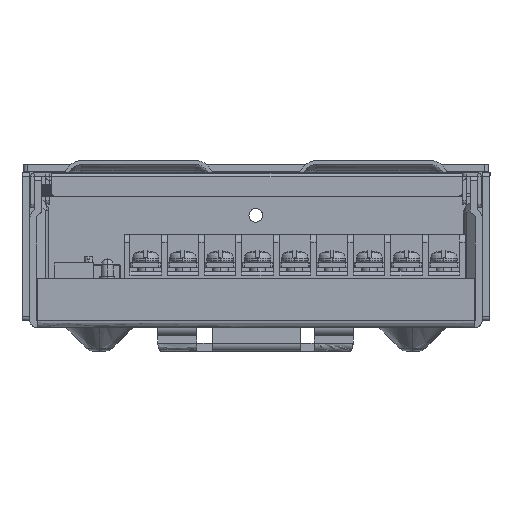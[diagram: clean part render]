
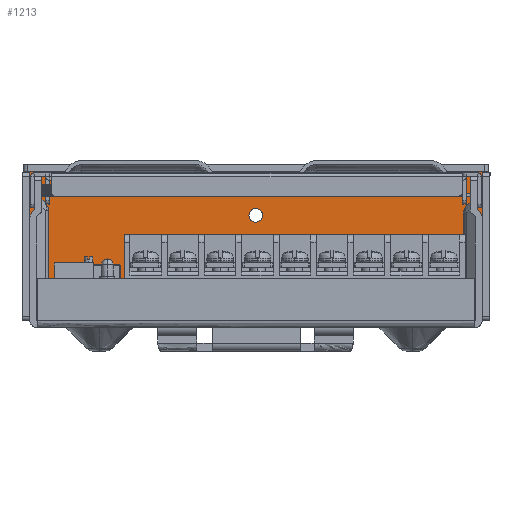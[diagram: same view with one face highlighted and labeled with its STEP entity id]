
A CAD part, front view. The second image highlights one B-rep face of the part: STEP entity #1213.
In plain terms, the highlighted planar face has unit normal (0, -1, 0).
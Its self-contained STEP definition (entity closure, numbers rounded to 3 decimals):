
#1213=ADVANCED_FACE('',(#4745,#3255,#3256),#44629,.T.);
#3255=FACE_BOUND('',#7590,.T.);
#3256=FACE_BOUND('',#7591,.T.);
#4745=FACE_OUTER_BOUND('',#7589,.T.);
#7589=EDGE_LOOP('',(#14200,#14201,#14202,#14203,#14204,#14205,#14206,#14207,
#14208,#14209,#14210,#14211));
#7590=EDGE_LOOP('',(#14212,#14213));
#7591=EDGE_LOOP('',(#14214,#14215));
#14200=ORIENTED_EDGE('',*,*,#26204,.F.);
#14201=ORIENTED_EDGE('',*,*,#26229,.T.);
#14202=ORIENTED_EDGE('',*,*,#26230,.T.);
#14203=ORIENTED_EDGE('',*,*,#26231,.T.);
#14204=ORIENTED_EDGE('',*,*,#26232,.T.);
#14205=ORIENTED_EDGE('',*,*,#26233,.T.);
#14206=ORIENTED_EDGE('',*,*,#26234,.T.);
#14207=ORIENTED_EDGE('',*,*,#26235,.T.);
#14208=ORIENTED_EDGE('',*,*,#26236,.T.);
#14209=ORIENTED_EDGE('',*,*,#26237,.T.);
#14210=ORIENTED_EDGE('',*,*,#26238,.T.);
#14211=ORIENTED_EDGE('',*,*,#26239,.T.);
#14212=ORIENTED_EDGE('',*,*,#26737,.T.);
#14213=ORIENTED_EDGE('',*,*,#26803,.T.);
#14214=ORIENTED_EDGE('',*,*,#26741,.T.);
#14215=ORIENTED_EDGE('',*,*,#26805,.T.);
#26204=EDGE_CURVE('',#39652,#39650,#35223,.T.);
#26229=EDGE_CURVE('',#39652,#39482,#35247,.T.);
#26230=EDGE_CURVE('',#39482,#39481,#35248,.T.);
#26231=EDGE_CURVE('',#39481,#39687,#35249,.T.);
#26232=EDGE_CURVE('',#39687,#39688,#35250,.T.);
#26233=EDGE_CURVE('',#39688,#39689,#35251,.T.);
#26234=EDGE_CURVE('',#39689,#39690,#35252,.T.);
#26235=EDGE_CURVE('',#39690,#39691,#35253,.T.);
#26236=EDGE_CURVE('',#39691,#39692,#35254,.T.);
#26237=EDGE_CURVE('',#39692,#39582,#35255,.T.);
#26238=EDGE_CURVE('',#39582,#39564,#35256,.T.);
#26239=EDGE_CURVE('',#39564,#39650,#35257,.T.);
#26737=EDGE_CURVE('',#39694,#39693,#31965,.T.);
#26741=EDGE_CURVE('',#39696,#39695,#31967,.T.);
#26803=EDGE_CURVE('',#39693,#39694,#32010,.T.);
#26805=EDGE_CURVE('',#39695,#39696,#32012,.T.);
#31965=(
BOUNDED_CURVE()
B_SPLINE_CURVE(2,(#70463,#70464,#70465,#70466,#70467),.UNSPECIFIED.,.F.,
 .F.)
B_SPLINE_CURVE_WITH_KNOTS((3,2,3),(-7.,-3.5,
0.),.UNSPECIFIED.)
CURVE()
GEOMETRIC_REPRESENTATION_ITEM()
RATIONAL_B_SPLINE_CURVE((1.,0.707,1.,0.707,1.))
REPRESENTATION_ITEM('')
);
#31967=(
BOUNDED_CURVE()
B_SPLINE_CURVE(2,(#70477,#70478,#70479,#70480,#70481),.UNSPECIFIED.,.F.,
 .F.)
B_SPLINE_CURVE_WITH_KNOTS((3,2,3),(-7.,-3.5,0.),
 .UNSPECIFIED.)
CURVE()
GEOMETRIC_REPRESENTATION_ITEM()
RATIONAL_B_SPLINE_CURVE((1.,0.707,1.,0.707,1.))
REPRESENTATION_ITEM('')
);
#32010=(
BOUNDED_CURVE()
B_SPLINE_CURVE(2,(#70809,#70810,#70811,#70812,#70813),.UNSPECIFIED.,.F.,
 .F.)
B_SPLINE_CURVE_WITH_KNOTS((3,2,3),(-7.,-3.5,
0.),.UNSPECIFIED.)
CURVE()
GEOMETRIC_REPRESENTATION_ITEM()
RATIONAL_B_SPLINE_CURVE((1.,0.707,1.,0.707,1.))
REPRESENTATION_ITEM('')
);
#32012=(
BOUNDED_CURVE()
B_SPLINE_CURVE(2,(#70819,#70820,#70821,#70822,#70823),.UNSPECIFIED.,.F.,
 .F.)
B_SPLINE_CURVE_WITH_KNOTS((3,2,3),(-7.,-3.5,
0.),.UNSPECIFIED.)
CURVE()
GEOMETRIC_REPRESENTATION_ITEM()
RATIONAL_B_SPLINE_CURVE((1.,0.707,1.,0.707,1.))
REPRESENTATION_ITEM('')
);
#35223=B_SPLINE_CURVE_WITH_KNOTS('',1,(#68873,#68874),.UNSPECIFIED.,.F.,
 .F.,(2,2),(0.,111.8),.UNSPECIFIED.);
#35247=B_SPLINE_CURVE_WITH_KNOTS('',1,(#68924,#68925),.UNSPECIFIED.,.F.,
 .F.,(2,2),(0.,0.1),.UNSPECIFIED.);
#35248=B_SPLINE_CURVE_WITH_KNOTS('',1,(#68926,#68927),.UNSPECIFIED.,.F.,
 .F.,(2,2),(0.,1.79),.UNSPECIFIED.);
#35249=B_SPLINE_CURVE_WITH_KNOTS('',1,(#68928,#68929),.UNSPECIFIED.,.F.,
 .F.,(2,2),(0.,0.21),.UNSPECIFIED.);
#35250=B_SPLINE_CURVE_WITH_KNOTS('',1,(#68930,#68931),.UNSPECIFIED.,.F.,
 .F.,(2,2),(0.,37.8),.UNSPECIFIED.);
#35251=B_SPLINE_CURVE_WITH_KNOTS('',1,(#68932,#68933),.UNSPECIFIED.,.F.,
 .F.,(2,2),(0.,0.2),.UNSPECIFIED.);
#35252=B_SPLINE_CURVE_WITH_KNOTS('',1,(#68934,#68935),.UNSPECIFIED.,.F.,
 .F.,(2,2),(0.,116.),.UNSPECIFIED.);
#35253=B_SPLINE_CURVE_WITH_KNOTS('',1,(#68936,#68937),.UNSPECIFIED.,.F.,
 .F.,(2,2),(0.,0.2),.UNSPECIFIED.);
#35254=B_SPLINE_CURVE_WITH_KNOTS('',1,(#68938,#68939),.UNSPECIFIED.,.F.,
 .F.,(2,2),(0.,37.8),.UNSPECIFIED.);
#35255=B_SPLINE_CURVE_WITH_KNOTS('',1,(#68940,#68941),.UNSPECIFIED.,.F.,
 .F.,(2,2),(0.,0.2),.UNSPECIFIED.);
#35256=B_SPLINE_CURVE_WITH_KNOTS('',1,(#68942,#68943),.UNSPECIFIED.,.F.,
 .F.,(2,2),(0.,1.8),.UNSPECIFIED.);
#35257=B_SPLINE_CURVE_WITH_KNOTS('',1,(#68944,#68945),.UNSPECIFIED.,.F.,
 .F.,(2,2),(0.,0.1),.UNSPECIFIED.);
#39481=VERTEX_POINT('',#68016);
#39482=VERTEX_POINT('',#68017);
#39564=VERTEX_POINT('',#68099);
#39582=VERTEX_POINT('',#68117);
#39650=VERTEX_POINT('',#68185);
#39652=VERTEX_POINT('',#68187);
#39687=VERTEX_POINT('',#68222);
#39688=VERTEX_POINT('',#68223);
#39689=VERTEX_POINT('',#68224);
#39690=VERTEX_POINT('',#68225);
#39691=VERTEX_POINT('',#68226);
#39692=VERTEX_POINT('',#68227);
#39693=VERTEX_POINT('',#68228);
#39694=VERTEX_POINT('',#68229);
#39695=VERTEX_POINT('',#68230);
#39696=VERTEX_POINT('',#68231);
#44629=PLANE('',#45892);
#45892=AXIS2_PLACEMENT_3D('',#62928,#47122,$);
#47122=DIRECTION('',(0.,-1.,0.));
#62928=CARTESIAN_POINT('',(-69.858,198.127,50.138));
#68016=CARTESIAN_POINT('',(57.652,198.126,8.218));
#68017=CARTESIAN_POINT('',(55.862,198.126,8.218));
#68099=CARTESIAN_POINT('',(-56.138,198.127,8.218));
#68117=CARTESIAN_POINT('',(-57.938,198.127,8.218));
#68185=CARTESIAN_POINT('',(-56.038,198.127,8.218));
#68187=CARTESIAN_POINT('',(55.762,198.126,8.218));
#68222=CARTESIAN_POINT('',(57.862,198.126,8.218));
#68223=CARTESIAN_POINT('',(57.862,198.126,46.018));
#68224=CARTESIAN_POINT('',(57.862,198.126,46.218));
#68225=CARTESIAN_POINT('',(-58.138,198.127,46.218));
#68226=CARTESIAN_POINT('',(-58.138,198.127,46.018));
#68227=CARTESIAN_POINT('',(-58.138,198.127,8.218));
#68228=CARTESIAN_POINT('',(-1.938,198.127,35.118));
#68229=CARTESIAN_POINT('',(1.562,198.127,35.118));
#68230=CARTESIAN_POINT('',(-1.938,198.127,25.518));
#68231=CARTESIAN_POINT('',(1.562,198.127,25.518));
#68873=CARTESIAN_POINT('',(55.762,198.126,8.218));
#68874=CARTESIAN_POINT('',(-56.038,198.127,8.218));
#68924=CARTESIAN_POINT('',(55.762,198.126,8.218));
#68925=CARTESIAN_POINT('',(55.862,198.126,8.218));
#68926=CARTESIAN_POINT('',(55.862,198.126,8.218));
#68927=CARTESIAN_POINT('',(57.652,198.126,8.218));
#68928=CARTESIAN_POINT('',(57.652,198.126,8.218));
#68929=CARTESIAN_POINT('',(57.862,198.126,8.218));
#68930=CARTESIAN_POINT('',(57.862,198.126,8.218));
#68931=CARTESIAN_POINT('',(57.862,198.126,46.018));
#68932=CARTESIAN_POINT('',(57.862,198.126,46.018));
#68933=CARTESIAN_POINT('',(57.862,198.126,46.218));
#68934=CARTESIAN_POINT('',(57.862,198.126,46.218));
#68935=CARTESIAN_POINT('',(-58.138,198.127,46.218));
#68936=CARTESIAN_POINT('',(-58.138,198.127,46.218));
#68937=CARTESIAN_POINT('',(-58.138,198.127,46.018));
#68938=CARTESIAN_POINT('',(-58.138,198.127,46.018));
#68939=CARTESIAN_POINT('',(-58.138,198.127,8.218));
#68940=CARTESIAN_POINT('',(-58.138,198.127,8.218));
#68941=CARTESIAN_POINT('',(-57.938,198.127,8.218));
#68942=CARTESIAN_POINT('',(-57.938,198.127,8.218));
#68943=CARTESIAN_POINT('',(-56.138,198.127,8.218));
#68944=CARTESIAN_POINT('',(-56.138,198.127,8.218));
#68945=CARTESIAN_POINT('',(-56.038,198.127,8.218));
#70463=CARTESIAN_POINT('',(1.562,198.127,35.118));
#70464=CARTESIAN_POINT('',(1.562,198.127,33.368));
#70465=CARTESIAN_POINT('',(-0.188,198.127,33.368));
#70466=CARTESIAN_POINT('',(-1.938,198.127,33.368));
#70467=CARTESIAN_POINT('',(-1.938,198.127,35.118));
#70477=CARTESIAN_POINT('',(1.562,198.127,25.518));
#70478=CARTESIAN_POINT('',(1.562,198.127,23.768));
#70479=CARTESIAN_POINT('',(-0.188,198.127,23.768));
#70480=CARTESIAN_POINT('',(-1.938,198.127,23.768));
#70481=CARTESIAN_POINT('',(-1.938,198.127,25.518));
#70809=CARTESIAN_POINT('',(-1.938,198.127,35.118));
#70810=CARTESIAN_POINT('',(-1.938,198.127,36.868));
#70811=CARTESIAN_POINT('',(-0.188,198.127,36.868));
#70812=CARTESIAN_POINT('',(1.562,198.127,36.868));
#70813=CARTESIAN_POINT('',(1.562,198.127,35.118));
#70819=CARTESIAN_POINT('',(-1.938,198.127,25.518));
#70820=CARTESIAN_POINT('',(-1.938,198.127,27.268));
#70821=CARTESIAN_POINT('',(-0.188,198.127,27.268));
#70822=CARTESIAN_POINT('',(1.562,198.127,27.268));
#70823=CARTESIAN_POINT('',(1.562,198.127,25.518));
